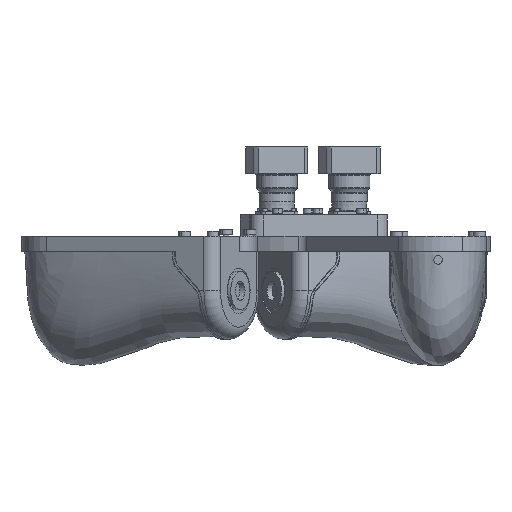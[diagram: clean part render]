
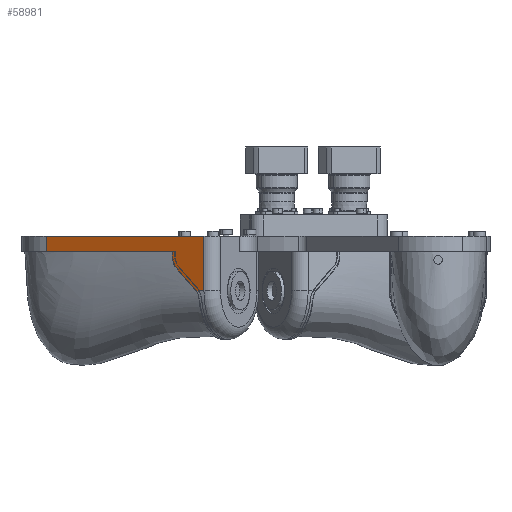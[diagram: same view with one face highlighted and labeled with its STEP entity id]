
A CAD part, front view. The second image highlights one B-rep face of the part: STEP entity #58981.
In plain terms, the highlighted planar face has unit normal (-0.5, -0.866, 0).
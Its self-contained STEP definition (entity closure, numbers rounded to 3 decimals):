
#1481 = CARTESIAN_POINT ( 'NONE',  ( -445.707, -65.989, -25. ) ) ;
#3778 = CARTESIAN_POINT ( 'NONE',  ( -445.707, -65.989, 0. ) ) ;
#4363 = VERTEX_POINT ( 'NONE', #79342 ) ;
#4937 = EDGE_CURVE ( 'NONE', #72892, #61723, #25810, .T. ) ;
#6825 = VECTOR ( 'NONE', #21119, 1000. ) ;
#7042 = ORIENTED_EDGE ( 'NONE', *, *, #88992, .F. ) ;
#7773 = VERTEX_POINT ( 'NONE', #93815 ) ;
#8393 = ORIENTED_EDGE ( 'NONE', *, *, #10839, .F. ) ;
#8703 = CARTESIAN_POINT ( 'NONE',  ( -237.861, -185.989, -25. ) ) ;
#9252 = VECTOR ( 'NONE', #56772, 1000. ) ;
#10839 = EDGE_CURVE ( 'NONE', #4363, #7773, #49811, .T. ) ;
#11546 = LINE ( 'NONE', #68238, #36692 ) ;
#11786 = LINE ( 'NONE', #42290, #63335 ) ;
#11802 = CARTESIAN_POINT ( 'NONE',  ( -185.899, -215.989, 0. ) ) ;
#12533 = DIRECTION ( 'NONE',  ( 0.866, -0.5, 0. ) ) ;
#13220 = LINE ( 'NONE', #68366, #6825 ) ;
#15822 = CARTESIAN_POINT ( 'NONE',  ( -168.579, -225.989, 0. ) ) ;
#16300 = AXIS2_PLACEMENT_3D ( 'NONE', #91584, #66961, #43331 ) ;
#18902 = CARTESIAN_POINT ( 'NONE',  ( -237.861, -185.989, -90. ) ) ;
#20299 = AXIS2_PLACEMENT_3D ( 'NONE', #92081, #21229, #75820 ) ;
#20598 = VECTOR ( 'NONE', #41949, 1000. ) ;
#21119 = DIRECTION ( 'NONE',  ( 0., 0., 1. ) ) ;
#21229 = DIRECTION ( 'NONE',  ( 0.5, 0.866, 0. ) ) ;
#22563 = CARTESIAN_POINT ( 'NONE',  ( -193.891, -211.375, -90. ) ) ;
#22808 = VERTEX_POINT ( 'NONE', #8703 ) ;
#24158 = CIRCLE ( 'NONE', #96221, 25. ) ;
#25127 = ORIENTED_EDGE ( 'NONE', *, *, #92903, .T. ) ;
#25810 = LINE ( 'NONE', #15822, #9252 ) ;
#26032 = FACE_OUTER_BOUND ( 'NONE', #41341, .T. ) ;
#26120 = EDGE_CURVE ( 'NONE', #55069, #33515, #24158, .T. ) ;
#33515 = VERTEX_POINT ( 'NONE', #92753 ) ;
#34409 = DIRECTION ( 'NONE',  ( -0.866, 0.5, 0. ) ) ;
#35193 = ORIENTED_EDGE ( 'NONE', *, *, #4937, .T. ) ;
#35705 = DIRECTION ( 'NONE',  ( -0.612, 0.354, 0.707 ) ) ;
#35756 = DIRECTION ( 'NONE',  ( -0.5, -0.866, 0. ) ) ;
#36692 = VECTOR ( 'NONE', #35705, 1000. ) ;
#41341 = EDGE_LOOP ( 'NONE', ( #25127, #92220, #99713, #35193, #7042, #95426, #73073, #8393, #82635, #75430 ) ) ;
#41949 = DIRECTION ( 'NONE',  ( 0., 0., 1. ) ) ;
#42290 = CARTESIAN_POINT ( 'NONE',  ( -168.579, -225.989, -25. ) ) ;
#43331 = DIRECTION ( 'NONE',  ( -0.866, 0.5, 0. ) ) ;
#43996 = DIRECTION ( 'NONE',  ( 0.866, -0.5, 0. ) ) ;
#49811 = CIRCLE ( 'NONE', #16300, 25. ) ;
#51587 = CARTESIAN_POINT ( 'NONE',  ( -445.707, -65.989, -25. ) ) ;
#52541 = CARTESIAN_POINT ( 'NONE',  ( -216.21, -198.489, -105.355 ) ) ;
#52980 = VERTEX_POINT ( 'NONE', #1481 ) ;
#53383 = EDGE_CURVE ( 'NONE', #62992, #82391, #98089, .T. ) ;
#55069 = VERTEX_POINT ( 'NONE', #57974 ) ;
#56772 = DIRECTION ( 'NONE',  ( -0.866, 0.5, 0. ) ) ;
#57974 = CARTESIAN_POINT ( 'NONE',  ( -199.125, -208.353, -90. ) ) ;
#58981 = ADVANCED_FACE ( 'NONE', ( #26032 ), #74275, .F. ) ;
#59913 = DIRECTION ( 'NONE',  ( 0.866, -0.5, 0. ) ) ;
#61723 = VERTEX_POINT ( 'NONE', #3778 ) ;
#62992 = VERTEX_POINT ( 'NONE', #22563 ) ;
#63335 = VECTOR ( 'NONE', #34409, 1000. ) ;
#65712 = EDGE_CURVE ( 'NONE', #82391, #72892, #90178, .T. ) ;
#66961 = DIRECTION ( 'NONE',  ( 0.5, 0.866, 0. ) ) ;
#67048 = CARTESIAN_POINT ( 'NONE',  ( -185.899, -215.989, -90. ) ) ;
#68238 = CARTESIAN_POINT ( 'NONE',  ( -200.901, -207.328, -87.678 ) ) ;
#68366 = CARTESIAN_POINT ( 'NONE',  ( -237.861, -185.989, -25. ) ) ;
#72892 = VERTEX_POINT ( 'NONE', #11802 ) ;
#73073 = ORIENTED_EDGE ( 'NONE', *, *, #99917, .F. ) ;
#74275 = PLANE ( 'NONE',  #20299 ) ;
#75430 = ORIENTED_EDGE ( 'NONE', *, *, #26120, .F. ) ;
#75820 = DIRECTION ( 'NONE',  ( 0., 0., -1. ) ) ;
#79342 = CARTESIAN_POINT ( 'NONE',  ( -231.52, -189.65, -52.322 ) ) ;
#81285 = CARTESIAN_POINT ( 'NONE',  ( -185.899, -215.989, -25. ) ) ;
#82391 = VERTEX_POINT ( 'NONE', #67048 ) ;
#82635 = ORIENTED_EDGE ( 'NONE', *, *, #89150, .F. ) ;
#83339 = CARTESIAN_POINT ( 'NONE',  ( -237.861, -185.989, -90. ) ) ;
#83566 = DIRECTION ( 'NONE',  ( 0., 0., 1. ) ) ;
#85112 = LINE ( 'NONE', #51587, #100383 ) ;
#85573 = VECTOR ( 'NONE', #43996, 1000. ) ;
#88992 = EDGE_CURVE ( 'NONE', #52980, #61723, #85112, .T. ) ;
#89150 = EDGE_CURVE ( 'NONE', #33515, #4363, #11546, .T. ) ;
#90178 = LINE ( 'NONE', #81285, #20598 ) ;
#91584 = CARTESIAN_POINT ( 'NONE',  ( -216.21, -198.489, -34.645 ) ) ;
#92081 = CARTESIAN_POINT ( 'NONE',  ( -168.579, -225.989, -25. ) ) ;
#92220 = ORIENTED_EDGE ( 'NONE', *, *, #53383, .T. ) ;
#92753 = CARTESIAN_POINT ( 'NONE',  ( -200.901, -207.328, -87.678 ) ) ;
#92903 = EDGE_CURVE ( 'NONE', #55069, #62992, #100726, .T. ) ;
#93815 = CARTESIAN_POINT ( 'NONE',  ( -237.861, -185.989, -34.645 ) ) ;
#95426 = ORIENTED_EDGE ( 'NONE', *, *, #95432, .F. ) ;
#95432 = EDGE_CURVE ( 'NONE', #22808, #52980, #11786, .T. ) ;
#96221 = AXIS2_PLACEMENT_3D ( 'NONE', #52541, #35756, #59913 ) ;
#98089 = LINE ( 'NONE', #83339, #85573 ) ;
#98963 = VECTOR ( 'NONE', #12533, 1000. ) ;
#99713 = ORIENTED_EDGE ( 'NONE', *, *, #65712, .T. ) ;
#99917 = EDGE_CURVE ( 'NONE', #7773, #22808, #13220, .T. ) ;
#100383 = VECTOR ( 'NONE', #83566, 1000. ) ;
#100726 = LINE ( 'NONE', #18902, #98963 ) ;
